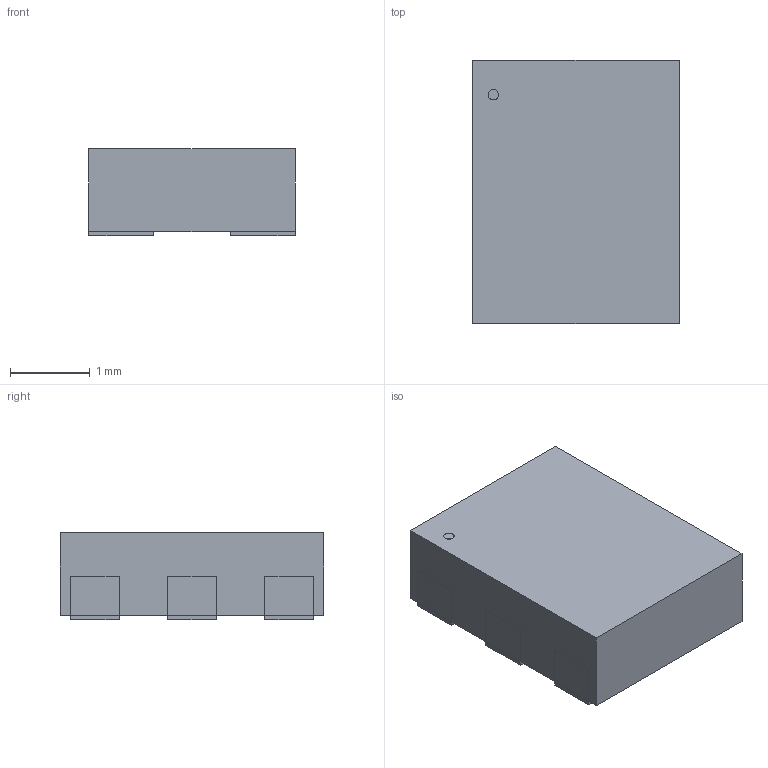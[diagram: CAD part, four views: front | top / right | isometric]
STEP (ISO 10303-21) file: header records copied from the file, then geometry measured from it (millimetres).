
FILE_DESCRIPTION(('STEP AP214'),'1');
FILE_NAME('AX3_ABR','2026-08-29T10:12:39',(''),(''),'','','');
FILE_SCHEMA(('AUTOMOTIVE_DESIGN'));
Length unit declared in the file: millimetre
Products named in the file (1): product
Bounding box: 2.59 x 3.3 x 1.09 mm (x, y, z)
Volume: 9.1 mm3; surface area: 39.8 mm2
Topology: 8 solids, 8 shells, 57 faces, 111 edges, 70 vertices
Faces by surface type: plane 56, cylinder 1
Full cylindrical faces by diameter (mm): 0.13 x1
Entity records: 1609 total; most frequent: ORIENTED_EDGE 244, DIRECTION 242, CARTESIAN_POINT 143, EDGE_CURVE 122, LINE 120, VECTOR 120, VERTEX_POINT 82, AXIS2_PLACEMENT_3D 61
